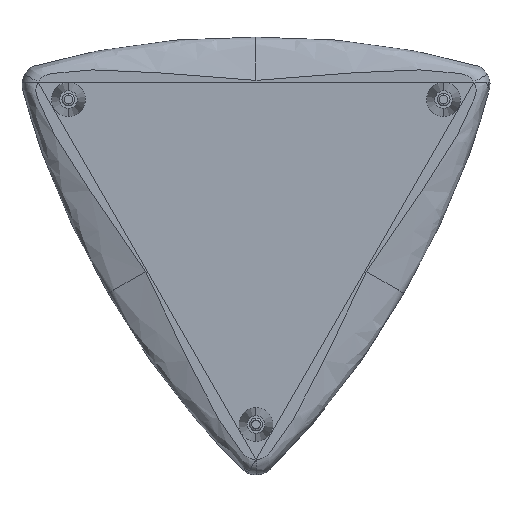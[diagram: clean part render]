
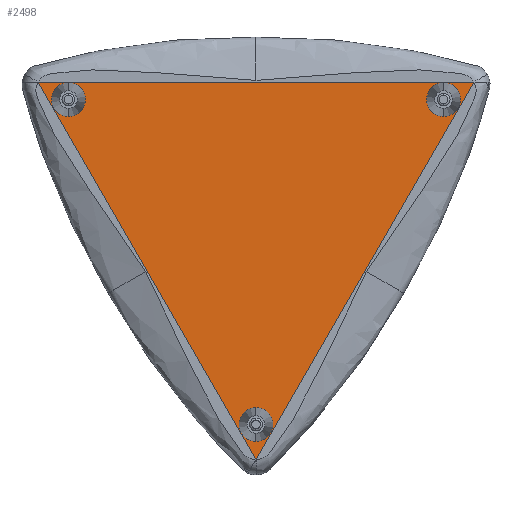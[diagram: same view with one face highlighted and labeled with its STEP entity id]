
A CAD part, front view. The second image highlights one B-rep face of the part: STEP entity #2498.
In plain terms, the highlighted planar face has unit normal (0, -1, 0).
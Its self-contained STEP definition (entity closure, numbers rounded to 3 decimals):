
#23 = EDGE_CURVE ( 'NONE', #671, #172, #697, .T. ) ;
#84 = FACE_BOUND ( 'NONE', #278, .T. ) ;
#102 = FACE_OUTER_BOUND ( 'NONE', #1323, .T. ) ;
#149 = DIRECTION ( 'NONE',  ( 0., 0., -1. ) ) ;
#154 = AXIS2_PLACEMENT_3D ( 'NONE', #746, #1503, #2016 ) ;
#172 = VERTEX_POINT ( 'NONE', #3051 ) ;
#174 = CARTESIAN_POINT ( 'NONE',  ( -268.192, 424.07, 34.358 ) ) ;
#191 = CARTESIAN_POINT ( 'NONE',  ( -238.747, 424.07, 17.358 ) ) ;
#201 = EDGE_LOOP ( 'NONE', ( #1224, #499 ) ) ;
#205 = DIRECTION ( 'NONE',  ( 0., 1., 0. ) ) ;
#278 = EDGE_LOOP ( 'NONE', ( #2247, #1036 ) ) ;
#311 = DIRECTION ( 'NONE',  ( 1., 0., 0. ) ) ;
#323 = CIRCLE ( 'NONE', #1222, 3. ) ;
#350 = CARTESIAN_POINT ( 'NONE',  ( 155.808, 424.07, 34.358 ) ) ;
#403 = VECTOR ( 'NONE', #2848, 1000. ) ;
#499 = ORIENTED_EDGE ( 'NONE', *, *, #1727, .T. ) ;
#510 = EDGE_CURVE ( 'NONE', #172, #671, #323, .T. ) ;
#530 = DIRECTION ( 'NONE',  ( 0., 0., -1. ) ) ;
#561 = DIRECTION ( 'NONE',  ( 0., 1., 0. ) ) ;
#586 = LINE ( 'NONE', #350, #1308 ) ;
#665 = CARTESIAN_POINT ( 'NONE',  ( -56.192, 424.07, -301.836 ) ) ;
#671 = VERTEX_POINT ( 'NONE', #3285 ) ;
#697 = CIRCLE ( 'NONE', #154, 3. ) ;
#700 = CARTESIAN_POINT ( 'NONE',  ( -238.747, 424.07, 20.358 ) ) ;
#708 = EDGE_CURVE ( 'NONE', #2331, #2074, #586, .T. ) ;
#746 = CARTESIAN_POINT ( 'NONE',  ( 126.363, 424.07, 17.358 ) ) ;
#819 = ORIENTED_EDGE ( 'NONE', *, *, #23, .T. ) ;
#831 = AXIS2_PLACEMENT_3D ( 'NONE', #2788, #2518, #1690 ) ;
#918 = CIRCLE ( 'NONE', #2720, 3. ) ;
#1028 = EDGE_LOOP ( 'NONE', ( #819, #2730 ) ) ;
#1036 = ORIENTED_EDGE ( 'NONE', *, *, #1097, .T. ) ;
#1047 = VERTEX_POINT ( 'NONE', #665 ) ;
#1097 = EDGE_CURVE ( 'NONE', #2659, #2576, #3256, .T. ) ;
#1137 = FACE_BOUND ( 'NONE', #201, .T. ) ;
#1138 = EDGE_CURVE ( 'NONE', #3469, #2331, #2034, .T. ) ;
#1202 = DIRECTION ( 'NONE',  ( 0., 1., 0. ) ) ;
#1222 = AXIS2_PLACEMENT_3D ( 'NONE', #3341, #1202, #149 ) ;
#1224 = ORIENTED_EDGE ( 'NONE', *, *, #3054, .T. ) ;
#1225 = AXIS2_PLACEMENT_3D ( 'NONE', #191, #205, #3451 ) ;
#1257 = ORIENTED_EDGE ( 'NONE', *, *, #1138, .F. ) ;
#1308 = VECTOR ( 'NONE', #311, 1000. ) ;
#1323 = EDGE_LOOP ( 'NONE', ( #2942, #2443, #1257 ) ) ;
#1453 = CIRCLE ( 'NONE', #1225, 3. ) ;
#1480 = CARTESIAN_POINT ( 'NONE',  ( 155.808, 424.07, 34.358 ) ) ;
#1503 = DIRECTION ( 'NONE',  ( 0., 1., 0. ) ) ;
#1690 = DIRECTION ( 'NONE',  ( 0., 0., 1. ) ) ;
#1727 = EDGE_CURVE ( 'NONE', #1900, #1047, #918, .T. ) ;
#1763 = DIRECTION ( 'NONE',  ( 0., 1., 0. ) ) ;
#1823 = CIRCLE ( 'NONE', #2274, 3. ) ;
#1884 = LINE ( 'NONE', #2626, #2071 ) ;
#1900 = VERTEX_POINT ( 'NONE', #2523 ) ;
#1922 = AXIS2_PLACEMENT_3D ( 'NONE', #3113, #1763, #2830 ) ;
#2016 = DIRECTION ( 'NONE',  ( 0., 0., -1. ) ) ;
#2034 = LINE ( 'NONE', #174, #403 ) ;
#2068 = DIRECTION ( 'NONE',  ( 0., 1., 0. ) ) ;
#2071 = VECTOR ( 'NONE', #2099, 1000. ) ;
#2074 = VERTEX_POINT ( 'NONE', #1480 ) ;
#2083 = CARTESIAN_POINT ( 'NONE',  ( -268.192, 424.07, 34.358 ) ) ;
#2099 = DIRECTION ( 'NONE',  ( -0.5, 0., -0.866 ) ) ;
#2240 = EDGE_CURVE ( 'NONE', #2074, #3469, #1884, .T. ) ;
#2247 = ORIENTED_EDGE ( 'NONE', *, *, #2425, .T. ) ;
#2274 = AXIS2_PLACEMENT_3D ( 'NONE', #2707, #561, #530 ) ;
#2326 = CARTESIAN_POINT ( 'NONE',  ( -56.192, 424.07, -298.836 ) ) ;
#2331 = VERTEX_POINT ( 'NONE', #2083 ) ;
#2425 = EDGE_CURVE ( 'NONE', #2576, #2659, #1453, .T. ) ;
#2443 = ORIENTED_EDGE ( 'NONE', *, *, #708, .F. ) ;
#2498 = ADVANCED_FACE ( 'NONE', ( #84, #102, #1137, #2555 ), #3324, .T. ) ;
#2518 = DIRECTION ( 'NONE',  ( 0., -1., 0. ) ) ;
#2523 = CARTESIAN_POINT ( 'NONE',  ( -56.192, 424.07, -295.836 ) ) ;
#2555 = FACE_BOUND ( 'NONE', #1028, .T. ) ;
#2576 = VERTEX_POINT ( 'NONE', #3031 ) ;
#2626 = CARTESIAN_POINT ( 'NONE',  ( -56.192, 424.07, -332.836 ) ) ;
#2659 = VERTEX_POINT ( 'NONE', #700 ) ;
#2707 = CARTESIAN_POINT ( 'NONE',  ( -56.192, 424.07, -298.836 ) ) ;
#2720 = AXIS2_PLACEMENT_3D ( 'NONE', #2326, #2068, #2897 ) ;
#2730 = ORIENTED_EDGE ( 'NONE', *, *, #510, .T. ) ;
#2788 = CARTESIAN_POINT ( 'NONE',  ( 155.808, 424.07, 34.358 ) ) ;
#2830 = DIRECTION ( 'NONE',  ( 0., 0., -1. ) ) ;
#2848 = DIRECTION ( 'NONE',  ( -0.5, 0., 0.866 ) ) ;
#2897 = DIRECTION ( 'NONE',  ( 0., 0., -1. ) ) ;
#2942 = ORIENTED_EDGE ( 'NONE', *, *, #2240, .F. ) ;
#3031 = CARTESIAN_POINT ( 'NONE',  ( -238.747, 424.07, 14.358 ) ) ;
#3051 = CARTESIAN_POINT ( 'NONE',  ( 126.363, 424.07, 20.358 ) ) ;
#3054 = EDGE_CURVE ( 'NONE', #1047, #1900, #1823, .T. ) ;
#3113 = CARTESIAN_POINT ( 'NONE',  ( -238.747, 424.07, 17.358 ) ) ;
#3256 = CIRCLE ( 'NONE', #1922, 3. ) ;
#3285 = CARTESIAN_POINT ( 'NONE',  ( 126.363, 424.07, 14.358 ) ) ;
#3324 = PLANE ( 'NONE',  #831 ) ;
#3332 = CARTESIAN_POINT ( 'NONE',  ( -56.192, 424.07, -332.836 ) ) ;
#3341 = CARTESIAN_POINT ( 'NONE',  ( 126.363, 424.07, 17.358 ) ) ;
#3451 = DIRECTION ( 'NONE',  ( 0., 0., -1. ) ) ;
#3469 = VERTEX_POINT ( 'NONE', #3332 ) ;
